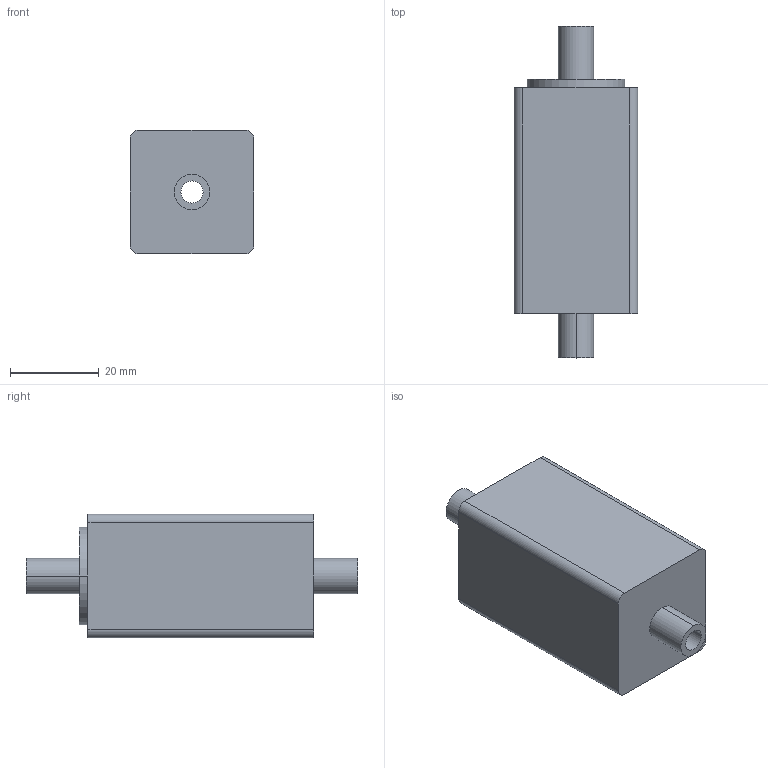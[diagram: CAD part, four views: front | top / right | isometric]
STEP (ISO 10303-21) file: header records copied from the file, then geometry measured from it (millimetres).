
FILE_DESCRIPTION (( 'STEP AP203' ), '1' );
FILE_NAME ('28CM013-ZK.STEP', '2021-05-07T02:39:59', ( 'Owner' ), ( 'Organization' ), 'SwSTEP 2.0', 'SolidWorks 2018', '' );
FILE_SCHEMA (( 'CONFIG_CONTROL_DESIGN' ));
Length unit declared in the file: millimetre
Products named in the file (1): 28CM013-ZK
Bounding box: 28 x 75 x 28 mm (x, y, z)
Volume: 40153.3 mm3; surface area: 9006.5 mm2
Topology: 1 solids, 1 shells, 33 faces, 72 edges, 48 vertices
Faces by surface type: cylinder 20, plane 13
Entity records: 1007 total; most frequent: DIRECTION 180, CARTESIAN_POINT 154, ORIENTED_EDGE 144, AXIS2_PLACEMENT_3D 74, EDGE_CURVE 72, VERTEX_POINT 48, EDGE_LOOP 42, CIRCLE 40
